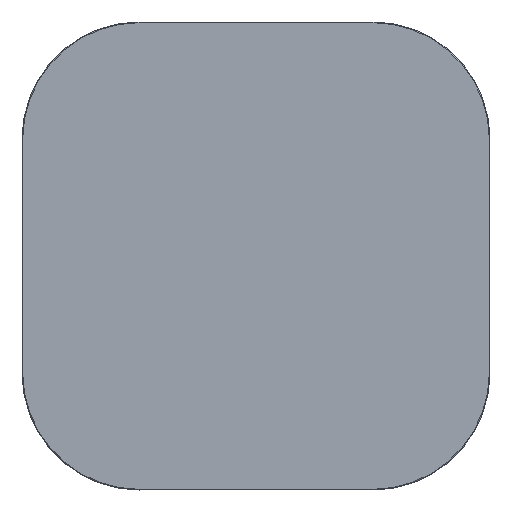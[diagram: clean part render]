
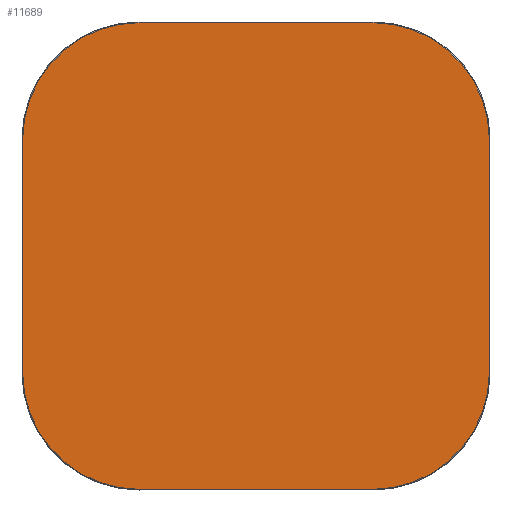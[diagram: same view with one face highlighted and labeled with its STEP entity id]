
A CAD part, top view. The second image highlights one B-rep face of the part: STEP entity #11689.
In plain terms, the highlighted planar face has unit normal (0, 0, 1).
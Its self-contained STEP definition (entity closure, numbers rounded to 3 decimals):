
#11614=CARTESIAN_POINT('',(0.,0.,20.));
#11615=DIRECTION('',(1.,0.,0.));
#11616=DIRECTION('',(0.,0.,1.));
#11617=AXIS2_PLACEMENT_3D('',#11614,#11616,#11615);
#11618=PLANE('',#11617);
#11619=CARTESIAN_POINT('',(-250.,-498.5,20.));
#11620=VERTEX_POINT('',#11619);
#11621=CARTESIAN_POINT('',(250.,-498.5,20.));
#11622=VERTEX_POINT('',#11621);
#11623=CARTESIAN_POINT('',(-250.,-498.5,20.));
#11624=DIRECTION('',(1.,0.,0.));
#11625=VECTOR('',#11624,500.);
#11626=LINE('',#11623,#11625);
#11627=EDGE_CURVE('',#11620,#11622,#11626,.T.);
#11628=ORIENTED_EDGE('E105',*,*,#11627,.T.);
#11629=CARTESIAN_POINT('',(498.5,-250.,20.));
#11630=VERTEX_POINT('',#11629);
#11631=CARTESIAN_POINT('',(250.,-250.,20.));
#11632=DIRECTION('',(0.,-1.,0.));
#11633=DIRECTION('',(0.,0.,1.));
#11634=AXIS2_PLACEMENT_3D('',#11631,#11633,#11632);
#11635=CIRCLE('',#11634,248.5);
#11636=EDGE_CURVE('',#11622,#11630,#11635,.T.);
#11637=ORIENTED_EDGE('E107',*,*,#11636,.T.);
#11638=CARTESIAN_POINT('',(498.5,250.,20.));
#11639=VERTEX_POINT('',#11638);
#11640=CARTESIAN_POINT('',(498.5,-250.,20.));
#11641=DIRECTION('',(0.,1.,0.));
#11642=VECTOR('',#11641,500.);
#11643=LINE('',#11640,#11642);
#11644=EDGE_CURVE('',#11630,#11639,#11643,.T.);
#11645=ORIENTED_EDGE('E109',*,*,#11644,.T.);
#11646=CARTESIAN_POINT('',(250.,498.5,20.));
#11647=VERTEX_POINT('',#11646);
#11648=CARTESIAN_POINT('',(250.,250.,20.));
#11649=DIRECTION('',(1.,0.,0.));
#11650=DIRECTION('',(0.,0.,1.));
#11651=AXIS2_PLACEMENT_3D('',#11648,#11650,#11649);
#11652=CIRCLE('',#11651,248.5);
#11653=EDGE_CURVE('',#11639,#11647,#11652,.T.);
#11654=ORIENTED_EDGE('E111',*,*,#11653,.T.);
#11655=CARTESIAN_POINT('',(-250.,498.5,20.));
#11656=VERTEX_POINT('',#11655);
#11657=CARTESIAN_POINT('',(250.,498.5,20.));
#11658=DIRECTION('',(-1.,0.,0.));
#11659=VECTOR('',#11658,500.);
#11660=LINE('',#11657,#11659);
#11661=EDGE_CURVE('',#11647,#11656,#11660,.T.);
#11662=ORIENTED_EDGE('E113',*,*,#11661,.T.);
#11663=CARTESIAN_POINT('',(-498.5,250.,20.));
#11664=VERTEX_POINT('',#11663);
#11665=CARTESIAN_POINT('',(-250.,250.,20.));
#11666=DIRECTION('',(0.,1.,0.));
#11667=DIRECTION('',(0.,0.,1.));
#11668=AXIS2_PLACEMENT_3D('',#11665,#11667,#11666);
#11669=CIRCLE('',#11668,248.5);
#11670=EDGE_CURVE('',#11656,#11664,#11669,.T.);
#11671=ORIENTED_EDGE('E115',*,*,#11670,.T.);
#11672=CARTESIAN_POINT('',(-498.5,-250.,20.));
#11673=VERTEX_POINT('',#11672);
#11674=CARTESIAN_POINT('',(-498.5,250.,20.));
#11675=DIRECTION('',(0.,-1.,0.));
#11676=VECTOR('',#11675,500.);
#11677=LINE('',#11674,#11676);
#11678=EDGE_CURVE('',#11664,#11673,#11677,.T.);
#11679=ORIENTED_EDGE('E117',*,*,#11678,.T.);
#11680=CARTESIAN_POINT('',(-250.,-250.,20.));
#11681=DIRECTION('',(-1.,0.,0.));
#11682=DIRECTION('',(-0.,0.,1.));
#11683=AXIS2_PLACEMENT_3D('',#11680,#11682,#11681);
#11684=CIRCLE('',#11683,248.5);
#11685=EDGE_CURVE('',#11673,#11620,#11684,.T.);
#11686=ORIENTED_EDGE('E119',*,*,#11685,.T.);
#11687=EDGE_LOOP('',(#11628,#11637,#11645,#11654,#11662,#11671,#11679,#11686));
#11688=FACE_OUTER_BOUND('',#11687,.T.);
#11689=ADVANCED_FACE('F2',(#11688),#11618,.T.);
